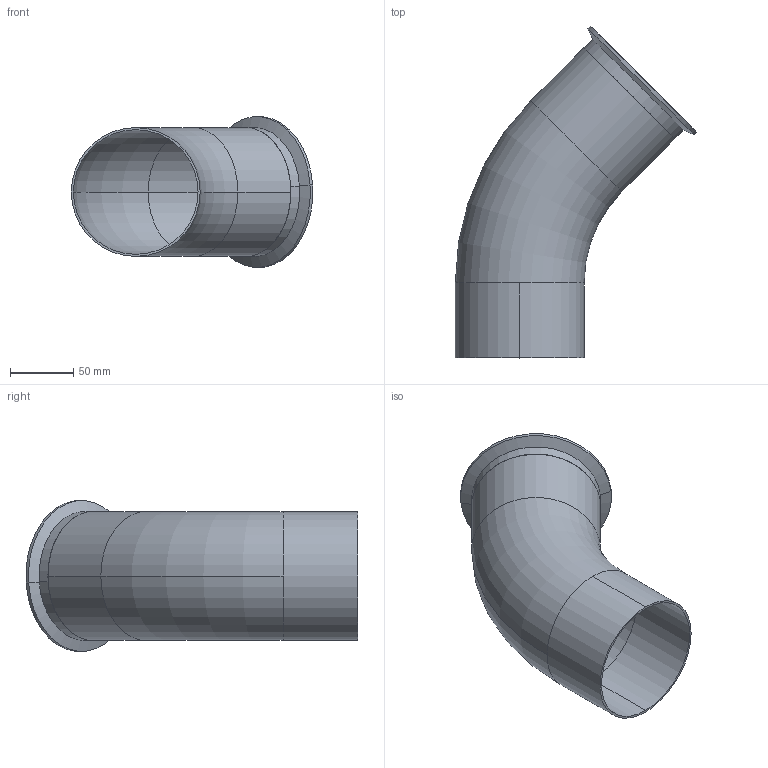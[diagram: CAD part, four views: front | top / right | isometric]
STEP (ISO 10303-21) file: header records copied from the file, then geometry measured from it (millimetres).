
FILE_DESCRIPTION (( 'STEP AP203' ), '1' );
FILE_NAME ('E2KC4.0.STEP', '2018-04-30T15:42:17', ( 'vneprd' ), ( 'Microsoft' ), 'SwSTEP 2.0', 'SolidWorks 2014', '' );
FILE_SCHEMA (( 'CONFIG_CONTROL_DESIGN' ));
Length unit declared in the file: inch
Products named in the file (1): E2KC4.0
Bounding box: 190.36 x 261.78 x 118.53 mm (x, y, z)
Volume: 146112.4 mm3; surface area: 167349.5 mm2
Topology: 2 solids, 2 shells, 31 faces, 66 edges, 40 vertices
Faces by surface type: cylinder 14, torus 10, plane 5, cone 2
Entity records: 939 total; most frequent: DIRECTION 180, CARTESIAN_POINT 138, ORIENTED_EDGE 132, AXIS2_PLACEMENT_3D 82, EDGE_CURVE 66, CIRCLE 50, VERTEX_POINT 40, EDGE_LOOP 36
